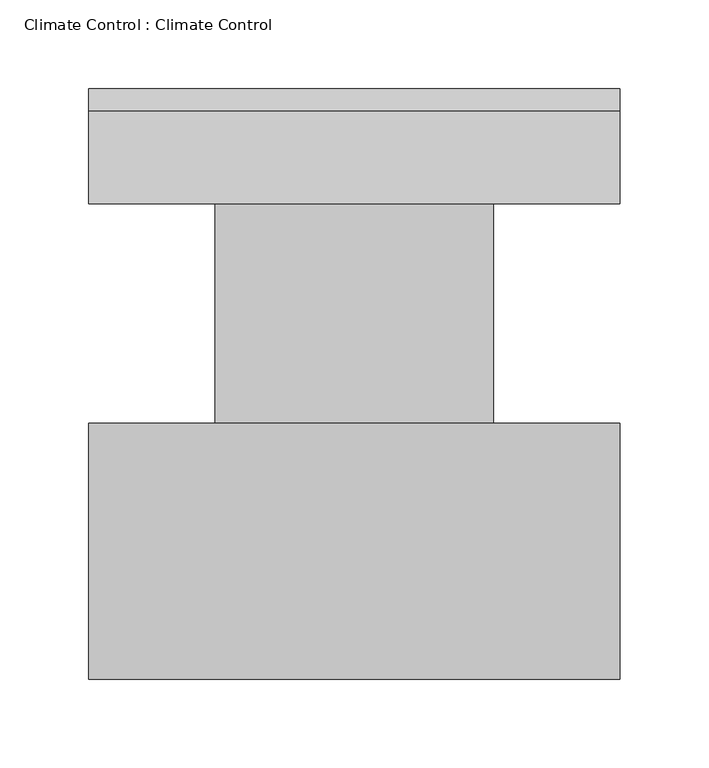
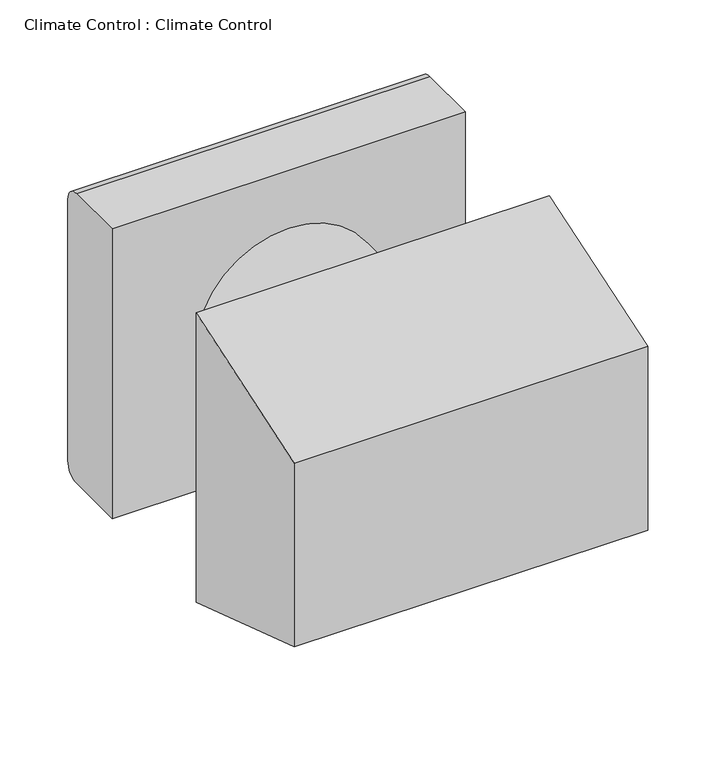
"""IFC4 building model written with IfcOpenShell, lengths in millimetres: proxy geometry, Climate Control : Climate Control."""

from ifc_helpers import new_model, si_unit, point, frame, frame_2d, origin, place, context, project, spatial, polyline, circle_curve, trimmed, segment, composite_curve, outline, extrude, source, transform, mapped, element, save


def climate_control_climate_control_2b801170(model_context):
    return source(origin(), model_context, "Body", "SweptSolid", [
        extrude(outline(composite_curve([segment(trimmed(circle_curve(frame_2d((98.574, 247.8249889)), 12.7), [point((98.574, 260.5249889))], [point((111.274, 247.8249889))], False, "CARTESIAN"), True, "CONTINUOUS"), segment(polyline([(111.274, 247.8249889), (111.274, 12.8749889)]), True, "CONTINUOUS"), segment(trimmed(circle_curve(frame_2d((98.574, 12.8749889)), 12.7), [point((111.274, 12.8749889))], [point((98.574, 0.1749889))], False, "CARTESIAN"), True, "CONTINUOUS"), segment(polyline([(98.574, 0.1749889), (46.25, 0.1749889), (46.25, 260.5249889), (98.574, 260.5249889)]), True, "CONTINUOUS")], self_intersect=False)), frame((0.0, 0.0, 0.0), z_axis=(1.0, 0.0, 0.0), x_axis=(0.0, 1.0, 0.0)), (0.0, 0.0, 1.0), 300.0),
        extrude(outline(composite_curve([segment(trimmed(circle_curve(frame_2d((130.3499889, 150.0)), 78.5), [point((130.3499889, 71.5))], [point((130.3499889, 228.5))], False, "CARTESIAN"), True, "CONTINUOUS"), segment(trimmed(circle_curve(frame_2d((130.3499889, 150.0)), 78.5), [point((130.3499889, 228.5))], [point((130.3499889, 71.5))], False, "CARTESIAN"), True, "CONTINUOUS")], self_intersect=False)), frame((0.0, -77.4416584, 0.0), z_axis=(0.0, 1.0, 0.0), x_axis=(0.0, 0.0, 1.0)), (0.0, 0.0, 1.0), 123.6916584),
        extrude(outline(polyline([(-77.4416584, 260.3499889), (-77.4416584, 0.0), (-221.9040055, 47.6250648), (-221.9040055, 212.7251625), (-77.4416584, 260.3499889)])), frame((0.0, 0.0, 0.0), z_axis=(1.0, 0.0, 0.0), x_axis=(0.0, 1.0, 0.0)), (0.0, 0.0, 1.0), 300.0),
    ])


if __name__ == "__main__":
    model = new_model("IFC4")
    model_context = context("Model", 3, world=origin())
    ifc_project = project(units=[si_unit("LENGTHUNIT", "METRE", prefix="MILLI")], contexts=[model_context])
    site = spatial("IfcSite", under=ifc_project)
    building = spatial("IfcBuilding", under=site)
    placement = place(None, origin())
    climate_control_climate_control_shape = climate_control_climate_control_2b801170(model_context)
    element("IfcBuildingElementProxy", 1, Name="Climate Control : Climate Control", ObjectType="Climate Control : Climate Control", at=placement, inside=building, context=model_context, shape_type="MappedRepresentation", body=[
        mapped(climate_control_climate_control_shape, transform((0.0, 0.0, 0.0), x_axis=(1.0, 0.0, 0.0), y_axis=(0.0, 1.0, 0.0), z_axis=(0.0, 0.0, 1.0))),
    ])
    save(model, "model.ifc")
